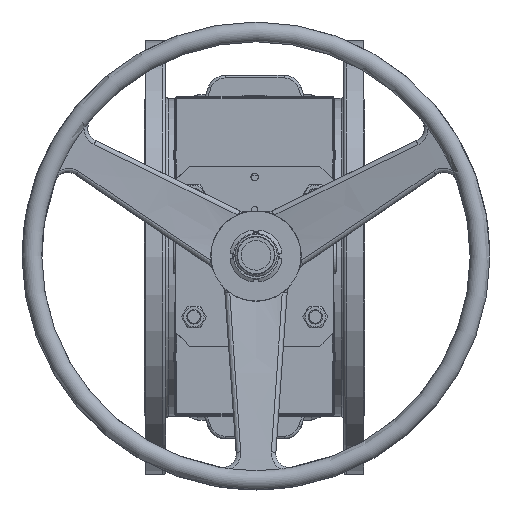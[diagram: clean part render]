
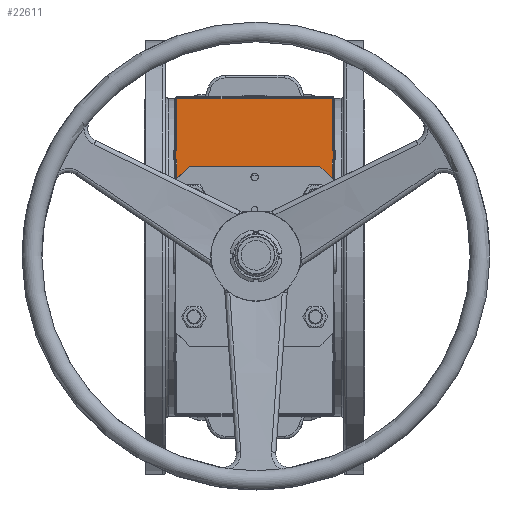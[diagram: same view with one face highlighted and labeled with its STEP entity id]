
A CAD part, top view. The second image highlights one B-rep face of the part: STEP entity #22611.
In plain terms, the highlighted planar face has unit normal (0, 0, 1).
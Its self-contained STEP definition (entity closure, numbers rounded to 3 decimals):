
#3074=FACE_OUTER_BOUND('',#4477,.T.);
#4477=EDGE_LOOP('',(#16233,#16234,#16235,#16236,#16237,#16238,#16239,#16240,
#16241,#16242,#16243,#16244,#16245,#16246));
#6099=LINE('',#41636,#7764);
#6225=LINE('',#42107,#7890);
#6230=LINE('',#42114,#7895);
#6235=LINE('',#42124,#7900);
#6236=LINE('',#42126,#7901);
#6237=LINE('',#42128,#7902);
#6238=LINE('',#42130,#7903);
#6239=LINE('',#42132,#7904);
#6240=LINE('',#42134,#7905);
#6241=LINE('',#42136,#7906);
#6242=LINE('',#42138,#7907);
#6243=LINE('',#42140,#7908);
#6244=LINE('',#42142,#7909);
#6245=LINE('',#42143,#7910);
#7764=VECTOR('',#27467,10.);
#7890=VECTOR('',#27847,10.);
#7895=VECTOR('',#27854,10.);
#7900=VECTOR('',#27863,10.);
#7901=VECTOR('',#27864,10.);
#7902=VECTOR('',#27865,10.);
#7903=VECTOR('',#27866,10.);
#7904=VECTOR('',#27867,10.);
#7905=VECTOR('',#27868,10.);
#7906=VECTOR('',#27869,1.44);
#7907=VECTOR('',#27870,10.);
#7908=VECTOR('',#27871,10.);
#7909=VECTOR('',#27872,10.);
#7910=VECTOR('',#27873,1.44);
#9582=VERTEX_POINT('',#41634);
#9583=VERTEX_POINT('',#41635);
#9800=VERTEX_POINT('',#42105);
#9801=VERTEX_POINT('',#42106);
#9805=VERTEX_POINT('',#42123);
#9806=VERTEX_POINT('',#42125);
#9807=VERTEX_POINT('',#42127);
#9808=VERTEX_POINT('',#42129);
#9809=VERTEX_POINT('',#42131);
#9810=VERTEX_POINT('',#42133);
#9811=VERTEX_POINT('',#42135);
#9812=VERTEX_POINT('',#42137);
#9813=VERTEX_POINT('',#42139);
#9814=VERTEX_POINT('',#42141);
#11967=EDGE_CURVE('',#9582,#9583,#6099,.T.);
#12200=EDGE_CURVE('',#9800,#9801,#6225,.T.);
#12205=EDGE_CURVE('',#9583,#9800,#6230,.T.);
#12210=EDGE_CURVE('',#9805,#9801,#6235,.T.);
#12211=EDGE_CURVE('',#9805,#9806,#6236,.T.);
#12212=EDGE_CURVE('',#9806,#9807,#6237,.T.);
#12213=EDGE_CURVE('',#9807,#9808,#6238,.T.);
#12214=EDGE_CURVE('',#9809,#9808,#6239,.T.);
#12215=EDGE_CURVE('',#9809,#9810,#6240,.T.);
#12216=EDGE_CURVE('',#9811,#9810,#6241,.T.);
#12217=EDGE_CURVE('',#9812,#9811,#6242,.T.);
#12218=EDGE_CURVE('',#9813,#9812,#6243,.T.);
#12219=EDGE_CURVE('',#9814,#9813,#6244,.T.);
#12220=EDGE_CURVE('',#9582,#9814,#6245,.T.);
#16233=ORIENTED_EDGE('',*,*,#11967,.T.);
#16234=ORIENTED_EDGE('',*,*,#12205,.T.);
#16235=ORIENTED_EDGE('',*,*,#12200,.T.);
#16236=ORIENTED_EDGE('',*,*,#12210,.F.);
#16237=ORIENTED_EDGE('',*,*,#12211,.T.);
#16238=ORIENTED_EDGE('',*,*,#12212,.T.);
#16239=ORIENTED_EDGE('',*,*,#12213,.T.);
#16240=ORIENTED_EDGE('',*,*,#12214,.F.);
#16241=ORIENTED_EDGE('',*,*,#12215,.T.);
#16242=ORIENTED_EDGE('',*,*,#12216,.F.);
#16243=ORIENTED_EDGE('',*,*,#12217,.F.);
#16244=ORIENTED_EDGE('',*,*,#12218,.F.);
#16245=ORIENTED_EDGE('',*,*,#12219,.F.);
#16246=ORIENTED_EDGE('',*,*,#12220,.F.);
#21881=PLANE('',#24256);
#22611=ADVANCED_FACE('',(#3074),#21881,.T.);
#24256=AXIS2_PLACEMENT_3D('',#42122,#27861,#27862);
#27467=DIRECTION('',(0.707,0.707,0.));
#27847=DIRECTION('',(0.707,-0.707,0.));
#27854=DIRECTION('',(1.,0.,0.));
#27861=DIRECTION('center_axis',(0.,0.,
1.));
#27862=DIRECTION('ref_axis',(-1.,0.,0.));
#27863=DIRECTION('',(0.,-1.,0.));
#27864=DIRECTION('',(1.,0.,0.));
#27865=DIRECTION('',(0.,1.,0.));
#27866=DIRECTION('',(-1.,0.,0.));
#27867=DIRECTION('',(0.,-1.,0.));
#27868=DIRECTION('',(-1.,0.,0.));
#27869=DIRECTION('',(0.,1.,0.));
#27870=DIRECTION('',(1.,0.,0.));
#27871=DIRECTION('',(0.,1.,0.));
#27872=DIRECTION('',(-1.,0.,0.));
#27873=DIRECTION('',(0.,1.,0.));
#41634=CARTESIAN_POINT('',(-86.5,86.,861.));
#41635=CARTESIAN_POINT('',(-72.5,100.,861.));
#41636=CARTESIAN_POINT('',(-50.717,121.783,861.));
#42105=CARTESIAN_POINT('',(72.5,100.,861.));
#42106=CARTESIAN_POINT('',(86.5,86.,861.));
#42107=CARTESIAN_POINT('',(50.717,121.783,861.));
#42114=CARTESIAN_POINT('',(-43.75,100.,861.));
#42122=CARTESIAN_POINT('Origin',(0.,129.632,
861.));
#42123=CARTESIAN_POINT('',(86.5,107.001,861.));
#42124=CARTESIAN_POINT('',(86.5,175.001,861.));
#42125=CARTESIAN_POINT('',(87.7,107.001,861.));
#42126=CARTESIAN_POINT('',(86.5,107.001,861.));
#42127=CARTESIAN_POINT('',(87.7,117.001,861.));
#42128=CARTESIAN_POINT('',(87.7,107.001,861.));
#42129=CARTESIAN_POINT('',(86.5,117.001,861.));
#42130=CARTESIAN_POINT('',(87.7,117.001,861.));
#42131=CARTESIAN_POINT('',(86.5,175.001,861.));
#42132=CARTESIAN_POINT('',(86.5,175.001,861.));
#42133=CARTESIAN_POINT('',(-86.5,175.001,861.));
#42134=CARTESIAN_POINT('',(0.,175.001,861.));
#42135=CARTESIAN_POINT('',(-86.5,117.001,861.));
#42136=CARTESIAN_POINT('',(-86.5,179.525,861.));
#42137=CARTESIAN_POINT('',(-87.7,117.001,861.));
#42138=CARTESIAN_POINT('',(-87.7,117.001,861.));
#42139=CARTESIAN_POINT('',(-87.7,107.001,861.));
#42140=CARTESIAN_POINT('',(-87.7,107.001,861.));
#42141=CARTESIAN_POINT('',(-86.5,107.001,861.));
#42142=CARTESIAN_POINT('',(-86.5,107.001,861.));
#42143=CARTESIAN_POINT('',(-86.5,179.525,861.));
